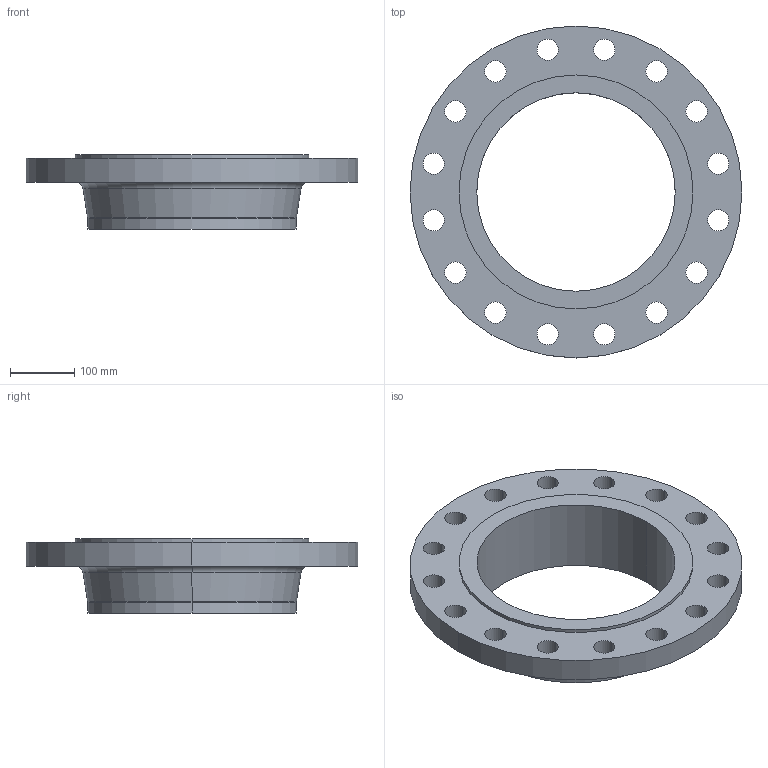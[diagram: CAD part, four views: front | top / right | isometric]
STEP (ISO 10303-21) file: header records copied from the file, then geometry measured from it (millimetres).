
FILE_DESCRIPTION (( 'STEP AP214' ), '1' );
FILE_NAME ('PN40 DN300 Type 11 - Type E Face.STEP', '2019-01-05T20:24:56', ( '' ), ( '' ), 'SwSTEP 2.0', 'SolidWorks 2019', '' );
FILE_SCHEMA (( 'AUTOMOTIVE_DESIGN' ));
Length unit declared in the file: millimetre
Products named in the file (1): PN40 DN300 Type 11 - Type E Face
Bounding box: 515 x 515 x 115 mm (x, y, z)
Volume: 5448522.2 mm3; surface area: 542111.2 mm2
Topology: 1 solids, 1 shells, 50 faces, 132 edges, 86 vertices
Faces by surface type: cylinder 40, torus 4, plane 4, cone 2
Entity records: 1700 total; most frequent: DIRECTION 324, CARTESIAN_POINT 269, ORIENTED_EDGE 264, AXIS2_PLACEMENT_3D 141, EDGE_CURVE 132, CIRCLE 90, VERTEX_POINT 86, EDGE_LOOP 86
